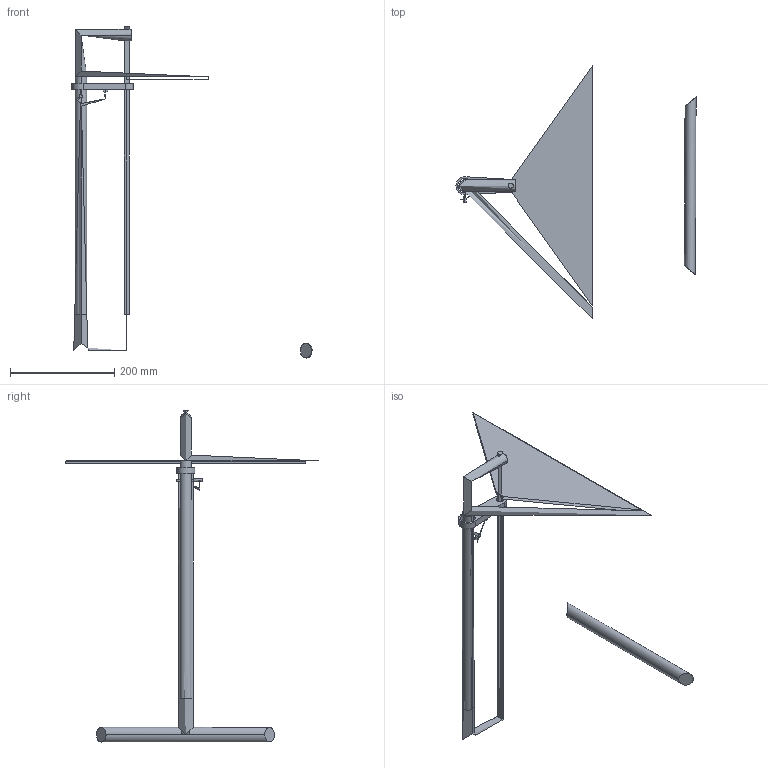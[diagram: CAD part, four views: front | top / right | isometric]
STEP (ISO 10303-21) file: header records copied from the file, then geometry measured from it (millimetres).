
FILE_DESCRIPTION(/* description */ (''),/* implementation_level */ '2;1');
FILE_NAME(/* name */ 'EG_Adjustable-Table-E-1027_3DL_20230703',/* time_stamp */ '2023-07-04T08:22:10+02:00',/* author */ (''),/* organization */ (''),/* preprocessor_version */ 'ST-DEVELOPER v16.5',/* originating_system */ 'Rhino 7.29',/* authorisation */ '');
FILE_SCHEMA (('CONFIG_CONTROL_DESIGN'));
Length unit declared in the file: millimetre
Products named in the file (1): Document
Bounding box: 460.4 x 485 x 636.5 mm (x, y, z)
Volume: 1936718.2 mm3; surface area: 698227 mm2
Topology: 5 solids, 9 shells, 77 faces, 184 edges, 117 vertices
Faces by surface type: bspline 36, cylinder 24, plane 17
Entity records: 7728 total; most frequent: CARTESIAN_POINT 6450, ORIENTED_EDGE 343, EDGE_CURVE 186, B_SPLINE_CURVE_WITH_KNOTS 118, VERTEX_POINT 117, EDGE_LOOP 92, ADVANCED_FACE 77, FACE_OUTER_BOUND 77
